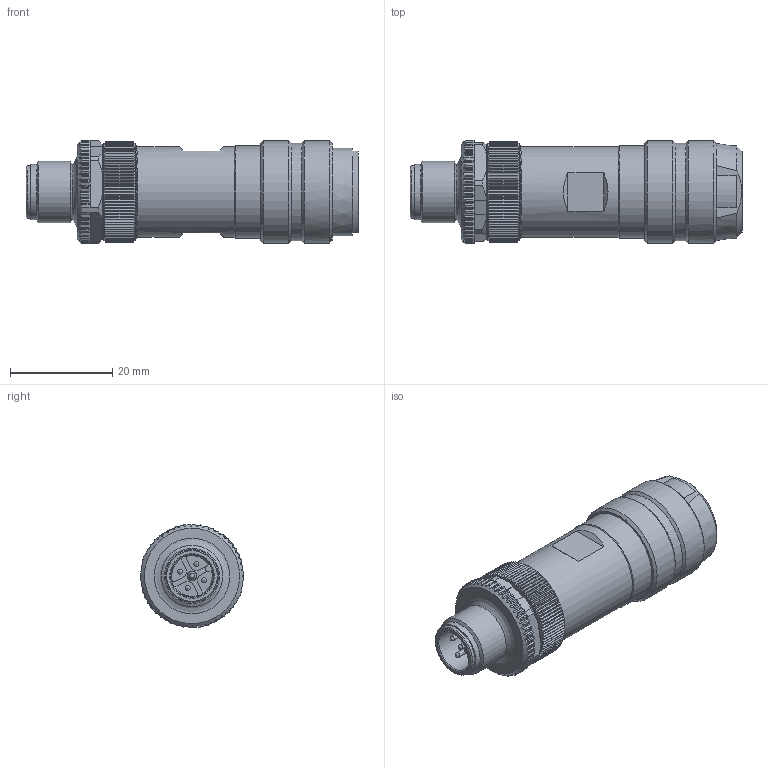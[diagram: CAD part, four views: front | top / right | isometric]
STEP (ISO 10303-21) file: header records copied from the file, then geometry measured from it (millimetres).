
FILE_DESCRIPTION(/* description */ (''),/* implementation_level */ '2;1');
FILE_NAME(/* name */ '99-1437-914-05-001_00.stp',/* time_stamp */ '2018-11-30T09:48:23+01:00',/* author */ (''),/* organization */ (''),/* preprocessor_version */ 'ST-DEVELOPER v16',/* originating_system */ 'SIEMENS PLM Software NX 11.0',/* authorisation */ '');
FILE_SCHEMA (('AUTOMOTIVE_DESIGN { 1 0 10303 214 3 1 1 1 }'));
Length unit declared in the file: millimetre
Products named in the file (1): sgro3690B2E6001u
Bounding box: 64.8 x 20.17 x 20.18 mm (x, y, z)
Volume: 15372.8 mm3; surface area: 5800.1 mm2
Topology: 1 solids, 2 shells, 812 faces, 1983 edges, 1184 vertices
Faces by surface type: plane 357, cylinder 229, cone 218, sphere 5, torus 2, bspline 1
Full cylindrical faces by diameter (mm): 1 x5, 1.85 x1, 8.3 x1, 10.2 x1, 10.3 x1, 10.8 x2, 12 x1, 17.186 x1, 17.188 x1, 17.2 x1, 17.7 x1, 18 x2, 18.1 x1, 19 x1, 20 x2
Entity records: 24953 total; most frequent: CARTESIAN_POINT 7118, ORIENTED_EDGE 3818, DIRECTION 3526, EDGE_CURVE 1909, AXIS2_PLACEMENT_3D 1414, VERTEX_POINT 1158, EDGE_LOOP 870, ADVANCED_FACE 812
